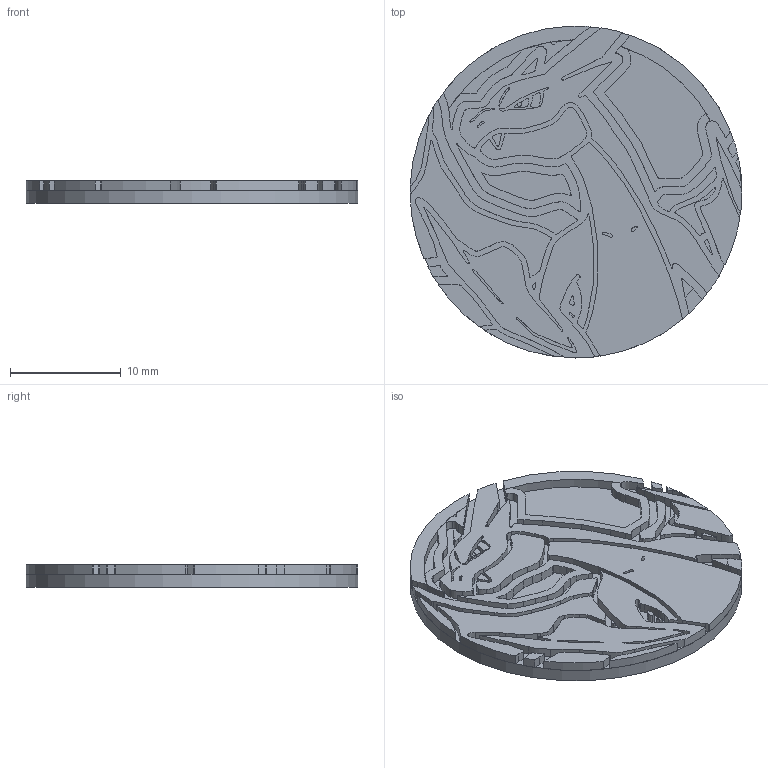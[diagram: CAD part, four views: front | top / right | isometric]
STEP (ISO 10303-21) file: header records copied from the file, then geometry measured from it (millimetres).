
FILE_DESCRIPTION(/* description */ (''),/* implementation_level */ '2;1');
FILE_NAME(/* name */ 'MegaCharizardYSTEP.step',/* time_stamp */ '2026-01-23T10:15:21+09:00',/* author */ (''),/* organization */ (''),/* preprocessor_version */ 'ST-DEVELOPER v20.1',/* originating_system */ 'Autodesk Translation Framework v14.24.0.0',/* authorisation */ '');
FILE_SCHEMA (('AUTOMOTIVE_DESIGN { 1 0 10303 214 3 1 1 }'));
Products named in the file (9): MegaCharizardY; Skin; Belly; Wings; Fang; Iris; EyeWhites; CharizardBorder; OuterBorder
Assembly tree (8 placements, depth 2):
  MegaCharizardY
    Skin
    Belly
    Wings
    Fang
    Iris
    EyeWhites
    CharizardBorder
    OuterBorder
Bounding box: 30 x 30 x 2 mm (x, y, z)
Volume: 1119.5 mm3; surface area: 3340.9 mm2
Topology: 34 solids, 34 shells, 1222 faces, 3378 edges, 2252 vertices
Faces by surface type: bspline 1028, plane 166, cylinder 28
Full cylindrical faces by diameter (mm): 30 x1
Entity records: 41807 total; most frequent: CARTESIAN_POINT 20489, ORIENTED_EDGE 6756, EDGE_CURVE 3378, VERTEX_POINT 2252, DIRECTION 1800, EDGE_LOOP 1268, LINE 1266, VECTOR 1266
